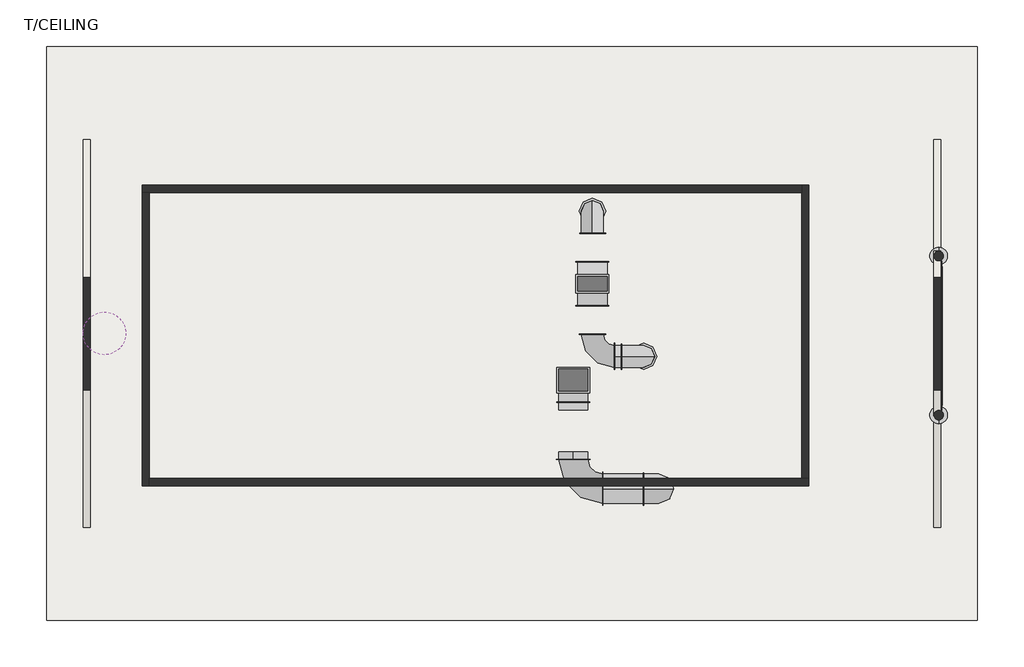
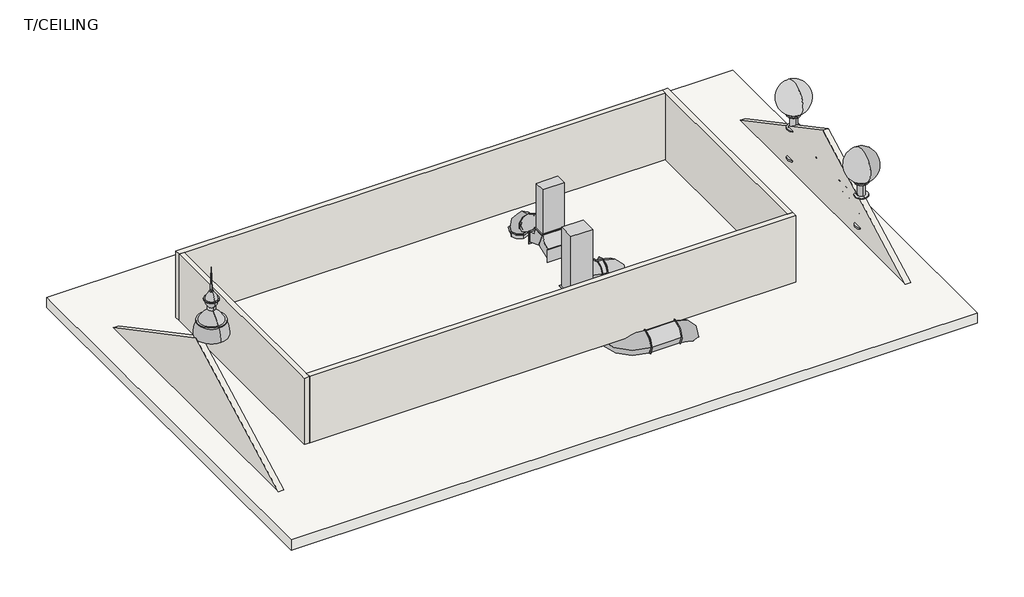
# One storey, incomplete: 51 members, 8 duct segments, 8 plates, 8 walls, 7 duct fittings, 2 air terminals, 2 columns, 1 covering, 2 other elements.
"""IFC4 building model written with IfcOpenShell, lengths in millimetres."""

from ifc_helpers import new_model, si_unit, point, frame, frame_2d, origin, place, context, project, spatial, polyline, circle_curve, trimmed, segment, composite_curve, outline, extrude, faceted_brep, transform, mapped, element, save
from components import air_terminal_962bfd54, column_72347231, column_7ae8a51b, duct_fitting_1b995eb4, duct_fitting_3ba3bf08, duct_fitting_bd8e9532, duct_fitting_371b4ede, duct_fitting_5e7f9d34, member_88db9026, member_5749b9c8, member_6c794b56, member_981c0da2, member_c8d6283c, member_1d6e3c11, plate_f320fb32, wall_db35d8b6

model = new_model("IFC4")

# Units and contexts
model_context = context("Model", 3, world=origin())
ifc_project = project(units=[si_unit("LENGTHUNIT", "METRE", prefix="MILLI")], contexts=[model_context])

# Site, building, storey
site = spatial("IfcSite", under=ifc_project)
building = spatial("IfcBuilding", under=site)
storey = spatial("IfcBuildingStorey", under=building, Name="T/CEILING", Elevation=2500.0)

# Air terminals
placement = place(None, origin())
air_terminal_shape = air_terminal_962bfd54(model_context)
element("IfcAirTerminal", 1, ObjectType="M_送风散流器 - 矩形面圆颈 : 500x500 - 300 颈", at=placement, inside=storey, context=model_context, shape_type="MappedRepresentation", body=[
    mapped(air_terminal_shape, transform((995.7408504, 1389.5693523, 2500.0), x_axis=(0.0, 1.0000000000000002, 0.0), y_axis=(-1.0000000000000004, 0.0, 0.0), z_axis=(0.0, 0.0, 1.0000000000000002))),
])
element("IfcAirTerminal", 2, ObjectType="M_送风散流器 - 矩形面圆颈 : 500x500 - 300 颈", at=placement, inside=storey, context=model_context, shape_type="MappedRepresentation", body=[
    mapped(air_terminal_shape, transform((295.7408504, 3373.1447636, 2500.0), x_axis=(-1.0000000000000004, 0.0, 0.0), y_axis=(0.0, -1.0000000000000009, 0.0), z_axis=(0.0, 0.0, 1.0000000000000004))),
])

# Proxy
element("IfcBuildingElementProxy", 3, Name="200 mm Arial", ObjectType="200 mm Arial", at=placement, inside=storey, context=model_context, shape_type="SweptSolid", body=[
    extrude(outline(polyline([(854.8426554, 3116.7153621), (854.8426554, 3313.638439), (987.1503477, 3313.638439), (987.1503477, 3289.0230544), (879.45804, 3289.0230544), (879.45804, 3230.561516), (971.7657323, 3230.561516), (971.7657323, 3205.9461314), (879.45804, 3205.9461314), (879.45804, 3116.7153621), (854.8426554, 3116.7153621)])), frame((5069.1580578, 0.0, 0.0), z_axis=(1.0, 0.0, 0.0), x_axis=(0.0, 1.0, 0.0)), (0.0, 0.0, 1.0), 10.0),
    extrude(outline(polyline([(1011.7657323, 3212.5807467), (1013.4063573, 3235.6787035), (1018.3282323, 3256.1264198), (1026.5313573, 3273.9238958), (1038.0157323, 3289.0711314), (1052.0932563, 3301.1654823), (1068.0758284, 3309.8043044), (1085.9634486, 3314.9875977), (1105.7561169, 3316.7153621), (1131.5854438, 3313.4701698), (1154.7465015, 3303.7345929), (1173.9772707, 3288.1937275), (1188.0157323, 3267.5326698), (1196.597463, 3242.749016), (1199.45804, 3214.8403621), (1196.4472227, 3186.5591121), (1187.4147707, 3161.4269006), (1172.8594823, 3140.7297852), (1153.2801554, 3125.7538237), (1130.317415, 3116.6672852), (1105.6118861, 3113.638439), (1079.3859246, 3116.9857948), (1056.0926554, 3127.0278621), (1036.909963, 3142.857189), (1023.0157323, 3163.5663237), (1014.5782323, 3187.3944487), (1011.7657323, 3212.5807467)]), holes=[polyline([(1036.3811169, 3212.3403621), (1041.3029919, 3181.5350737), (1056.0686169, 3158.061516), (1078.2621265, 3143.2057467), (1105.4676554, 3138.2538237), (1133.0698188, 3143.2538237), (1155.2993861, 3158.2538237), (1163.8495664, 3169.3025015), (1169.956838, 3182.4485352), (1174.8426554, 3215.0326698), (1172.7513092, 3236.8235352), (1166.4772707, 3255.6576698), (1156.1827996, 3271.060314), (1142.0301554, 3282.5567083), (1124.956838, 3289.7141602), (1105.9003477, 3292.0999775), (1079.4219823, 3287.5026217), (1056.909963, 3273.7105544), (1047.9285929, 3262.9788838), (1041.5133284, 3249.1732948), (1036.3811169, 3212.3403621)])]), frame((5069.1580578, 0.0, 0.0), z_axis=(1.0, 0.0, 0.0), x_axis=(0.0, 1.0, 0.0)), (0.0, 0.0, 1.0), 10.0),
    extrude(outline(polyline([(1224.0734246, 3212.5807467), (1225.7140496, 3235.6787035), (1230.6359246, 3256.1264198), (1238.8390496, 3273.9238958), (1250.3234246, 3289.0711314), (1264.4009486, 3301.1654823), (1280.3835207, 3309.8043044), (1298.2711409, 3314.9875977), (1318.0638092, 3316.7153621), (1343.8931361, 3313.4701698), (1367.0541938, 3303.7345929), (1386.284963, 3288.1937275), (1400.3234246, 3267.5326698), (1408.9051554, 3242.749016), (1411.7657323, 3214.8403621), (1408.754915, 3186.5591121), (1399.722463, 3161.4269006), (1385.1671746, 3140.7297852), (1365.5878477, 3125.7538237), (1342.6251073, 3116.6672852), (1317.9195784, 3113.638439), (1291.6936169, 3116.9857948), (1268.4003477, 3127.0278621), (1249.2176554, 3142.857189), (1235.3234246, 3163.5663237), (1226.8859246, 3187.3944487), (1224.0734246, 3212.5807467)]), holes=[polyline([(1248.6888092, 3212.3403621), (1253.6106842, 3181.5350737), (1268.3763092, 3158.061516), (1290.5698188, 3143.2057467), (1317.7753477, 3138.2538237), (1345.3775111, 3143.2538237), (1367.6070784, 3158.2538237), (1376.1572587, 3169.3025015), (1382.2645304, 3182.4485352), (1387.1503477, 3215.0326698), (1385.0590015, 3236.8235352), (1378.784963, 3255.6576698), (1368.4904919, 3271.060314), (1354.3378477, 3282.5567083), (1337.2645304, 3289.7141602), (1318.20804, 3292.0999775), (1291.7296746, 3287.5026217), (1269.2176554, 3273.7105544), (1260.2362852, 3262.9788838), (1253.8210207, 3249.1732948), (1248.6888092, 3212.3403621)])]), frame((5069.1580578, 0.0, 0.0), z_axis=(1.0, 0.0, 0.0), x_axis=(0.0, 1.0, 0.0)), (0.0, 0.0, 1.0), 10.0),
    extrude(outline(polyline([(1445.6118861, 3116.7153621), (1445.6118861, 3313.638439), (1513.5445784, 3313.638439), (1548.6888092, 3310.8019006), (1564.3859246, 3305.3331506), (1577.6311169, 3296.7153621), (1591.2489054, 3281.7153621), (1600.9484246, 3263.061516), (1606.753713, 3241.1144006), (1608.6888092, 3216.2345929), (1603.4484246, 3176.499016), (1589.9868861, 3147.8211314), (1572.0061169, 3129.9605544), (1548.472463, 3120.0807467), (1516.8138092, 3116.7153621), (1445.6118861, 3116.7153621)]), holes=[polyline([(1470.2272707, 3141.3307467), (1513.784963, 3141.3307467), (1545.4676554, 3144.888439), (1563.7368861, 3154.936516), (1572.2885688, 3165.591564), (1578.7128477, 3179.3836314), (1584.0734246, 3216.6192083), (1581.4472227, 3243.4461314), (1573.5686169, 3263.2538237), (1561.9279919, 3276.8595929), (1548.0157323, 3285.0807467), (1513.1118861, 3289.0230544), (1470.2272707, 3289.0230544), (1470.2272707, 3141.3307467)])]), frame((5069.1580578, 0.0, 0.0), z_axis=(1.0, 0.0, 0.0), x_axis=(0.0, 1.0, 0.0)), (0.0, 0.0, 1.0), 10.0),
    extrude(outline(polyline([(1719.45804, 3116.7153621), (1719.45804, 3313.638439), (1744.0734246, 3313.638439), (1744.0734246, 3217.2442083), (1845.034963, 3313.638439), (1879.45804, 3313.638439), (1794.6984246, 3232.6769006), (1882.534963, 3116.7153621), (1852.4388092, 3116.7153621), (1777.2465015, 3216.0422852), (1744.0734246, 3184.4076698), (1744.0734246, 3116.7153621), (1719.45804, 3116.7153621)])), frame((5069.1580578, 0.0, 0.0), z_axis=(1.0, 0.0, 0.0), x_axis=(0.0, 1.0, 0.0)), (0.0, 0.0, 1.0), 10.0),
    extrude(outline(polyline([(5079.1580578, 1928.6888092), (5079.1580578, 1904.0734246), (5069.1580578, 1904.0734246), (5069.1580578, 1928.6888092), (5079.1580578, 1928.6888092)])), frame((0.0, 0.0, 3116.7153621), z_axis=(0.0, 0.0, 1.0), x_axis=(1.0, 0.0, 0.0)), (0.0, 0.0, 1.0), 196.9230769),
    extrude(outline(polyline([(1968.6888092, 3212.5807467), (1970.3294342, 3235.6787035), (1975.2513092, 3256.1264198), (1983.4544342, 3273.9238958), (1994.9388092, 3289.0711314), (2009.0163332, 3301.1654823), (2024.9989054, 3309.8043044), (2042.8865255, 3314.9875977), (2062.6791938, 3316.7153621), (2088.5085207, 3313.4701698), (2111.6695784, 3303.7345929), (2130.9003477, 3288.1937275), (2144.9388092, 3267.5326698), (2153.52054, 3242.749016), (2156.3811169, 3214.8403621), (2153.3702996, 3186.5591121), (2144.3378477, 3161.4269006), (2129.7825592, 3140.7297852), (2110.2032323, 3125.7538237), (2087.2404919, 3116.6672852), (2062.534963, 3113.638439), (2036.3090015, 3116.9857948), (2013.0157323, 3127.0278621), (1993.83304, 3142.857189), (1979.9388092, 3163.5663237), (1971.5013092, 3187.3944487), (1968.6888092, 3212.5807467)]), holes=[polyline([(1993.3041938, 3212.3403621), (1998.2260688, 3181.5350737), (2012.9916938, 3158.061516), (2035.1852034, 3143.2057467), (2062.3907323, 3138.2538237), (2089.9928957, 3143.2538237), (2112.222463, 3158.2538237), (2120.7726433, 3169.3025015), (2126.879915, 3182.4485352), (2131.7657323, 3215.0326698), (2129.6743861, 3236.8235352), (2123.4003477, 3255.6576698), (2113.1058765, 3271.060314), (2098.9532323, 3282.5567083), (2081.879915, 3289.7141602), (2062.8234246, 3292.0999775), (2036.3450592, 3287.5026217), (2013.83304, 3273.7105544), (2004.8516698, 3262.9788838), (1998.4364054, 3249.1732948), (1993.3041938, 3212.3403621)])]), frame((5069.1580578, 0.0, 0.0), z_axis=(1.0, 0.0, 0.0), x_axis=(0.0, 1.0, 0.0)), (0.0, 0.0, 1.0), 10.0),
    extrude(outline(polyline([(2180.9965015, 3184.4076698), (2205.6118861, 3184.4076698), (2213.5445784, 3159.7682467), (2221.5133284, 3151.0543044), (2232.9195784, 3144.1913237), (2246.8618861, 3139.7381987), (2262.4388092, 3138.2538237), (2288.159963, 3142.749016), (2304.77054, 3155.1047852), (2310.2272707, 3171.6192083), (2306.1407323, 3186.9797852), (2299.9147707, 3193.0555064), (2289.409963, 3198.1576698), (2253.5686169, 3207.5567083), (2214.9868861, 3219.6961314), (2202.7332804, 3227.9773814), (2194.0493861, 3238.013439), (2188.8751073, 3249.5879583), (2187.1503477, 3262.4845929), (2189.2837611, 3276.9016602), (2195.6840015, 3290.3451698), (2206.1827996, 3301.7394006), (2220.6118861, 3310.0086314), (2237.9315977, 3315.0386794), (2257.1022707, 3316.7153621), (2277.8715015, 3314.9605544), (2296.0445784, 3309.6961314), (2310.972463, 3301.030266), (2322.0061169, 3289.0711314), (2328.98929, 3274.5639198), (2331.7657323, 3258.2538237), (2307.1503477, 3258.2538237), (2302.6311169, 3272.9413237), (2293.20804, 3283.5422852), (2278.4844823, 3289.9605544), (2258.0638092, 3292.0999775), (2237.1623669, 3289.9845929), (2222.8234246, 3283.638439), (2214.5301554, 3274.2994967), (2211.7657323, 3263.2057467), (2213.7248669, 3253.7466121), (2219.6022707, 3246.138439), (2233.4965015, 3239.3355544), (2259.7945784, 3232.388439), (2303.3522707, 3220.0326698), (2317.3847227, 3211.1023814), (2327.1743861, 3200.0807467), (2332.925588, 3187.0879583), (2334.8426554, 3172.2442083), (2332.6371265, 3157.0699294), (2326.02054, 3142.7970929), (2315.2633284, 3130.513439), (2300.6359246, 3121.3067083), (2283.0457804, 3115.5555064), (2263.4003477, 3113.638439), (2239.2837611, 3115.7057467), (2219.4340015, 3121.9076698), (2203.6227034, 3132.2682467), (2191.6215015, 3146.811516), (2183.9171746, 3164.5278621), (2180.9965015, 3184.4076698)])), frame((5069.1580578, 0.0, 0.0), z_axis=(1.0, 0.0, 0.0), x_axis=(0.0, 1.0, 0.0)), (0.0, 0.0, 1.0), 10.0),
    extrude(outline(polyline([(2371.7657323, 3116.7153621), (2371.7657323, 3313.638439), (2396.3811169, 3313.638439), (2396.3811169, 3217.2442083), (2497.3426554, 3313.638439), (2531.7657323, 3313.638439), (2447.0061169, 3232.6769006), (2534.8426554, 3116.7153621), (2504.7465015, 3116.7153621), (2429.5541938, 3216.0422852), (2396.3811169, 3184.4076698), (2396.3811169, 3116.7153621), (2371.7657323, 3116.7153621)])), frame((5069.1580578, 0.0, 0.0), z_axis=(1.0, 0.0, 0.0), x_axis=(0.0, 1.0, 0.0)), (0.0, 0.0, 1.0), 10.0),
])

# Columns
column_shape = column_72347231(model_context)
element("IfcColumn", 4, ObjectType="招牌柱 : 招牌柱", at=placement, inside=storey, context=model_context, shape_type="MappedRepresentation", body=[
    mapped(column_shape, transform((0.0, 0.0, 0.0), x_axis=(1.0, 0.0, 0.0), y_axis=(0.0, 1.0, 0.0), z_axis=(0.0, 0.0, 1.0))),
])
column_2_shape = column_7ae8a51b(model_context)
element("IfcColumn", 5, ObjectType="旗杆2 : 旗杆", at=placement, inside=storey, context=model_context, shape_type="MappedRepresentation", body=[
    mapped(column_2_shape, transform((1214.0, 0.0, 0.0), x_axis=(1.0, 0.0, 0.0), y_axis=(0.0, 1.0, 0.0), z_axis=(0.0, 0.0, 1.0))),
])

# Covering
element("IfcCovering", 6, ObjectType="600 x 1200mm 轴网", at=placement, inside=storey, context=model_context, shape_type="SweptSolid", body=[
    extrude(outline(polyline([(2709.1580578, 4328.016625), (2709.1580578, -971.983375), (-1360.8419422, -971.983375), (-1360.8419422, 4328.016625), (2709.1580578, 4328.016625)]), holes=[polyline([(545.7408504, 3123.1447636), (545.7408504, 3623.1447636), (45.7408504, 3623.1447636), (45.7408504, 3123.1447636), (545.7408504, 3123.1447636)]), polyline([(1574.1580578, -882.2745128), (1574.1580578, -282.2745128), (974.1580578, -282.2745128), (974.1580578, -882.2745128), (1574.1580578, -882.2745128)])]), frame((0.0, 0.0, 2500.0), z_axis=(0.0, 0.0, 1.0), x_axis=(1.0, 0.0, 0.0)), (0.0, 0.0, 1.0), 52.0),
])

# Duct fittings
duct_fitting_shape = duct_fitting_1b995eb4(model_context)
element("IfcDuctFitting", 7, ObjectType="圆形弯头 - 弧形 - 法兰 : 标准", at=placement, inside=storey, context=model_context, shape_type="MappedRepresentation", body=[
    mapped(duct_fitting_shape, transform((33.5546129, -421.0960802, 2845.0), x_axis=(0.0, -1.0, 0.0), y_axis=(1.0, 0.0, 0.0), z_axis=(0.0, 0.0, 1.0))),
])
duct_fitting_2_shape = duct_fitting_3ba3bf08(model_context)
element("IfcDuctFitting", 8, ObjectType="矩形弯头 - 半径 - 法兰 : 回风管弯头 1.0 W", at=placement, inside=storey, context=model_context, shape_type="MappedRepresentation", body=[
    mapped(duct_fitting_2_shape, transform((33.5546129, 1064.7943665, 2845.0), x_axis=(0.0, 1.0, 0.0), y_axis=(0.0, 0.0, 1.0), z_axis=(1.0, 0.0, 0.0))),
])
duct_fitting_3_shape = duct_fitting_bd8e9532(model_context)
element("IfcDuctFitting", 9, ObjectType="圆形弯头 - 弧形 - 法兰 : 标准", at=placement, inside=storey, context=model_context, shape_type="MappedRepresentation", body=[
    mapped(duct_fitting_3_shape, transform((995.7408504, 1389.5693523, 3100.0), x_axis=(0.0, 0.0, 1.0), y_axis=(-1.0, 0.0, 0.0), z_axis=(0.0, -1.0, 0.0))),
])
element("IfcDuctFitting", 10, ObjectType="圆形弯头 - 弧形 - 法兰 : 标准", at=placement, inside=storey, context=model_context, shape_type="MappedRepresentation", body=[
    mapped(duct_fitting_3_shape, transform((295.7408504, 1389.5693523, 3100.0), x_axis=(0.0, -1.0, 0.0), y_axis=(1.0, 0.0, 0.0), z_axis=(0.0, 0.0, 1.0))),
])
element("IfcDuctFitting", 11, ObjectType="圆形弯头 - 弧形 - 法兰 : 标准", at=placement, inside=storey, context=model_context, shape_type="MappedRepresentation", body=[
    mapped(duct_fitting_3_shape, transform((295.7408504, 3373.1447636, 3100.0), x_axis=(0.0, 0.0, 1.0000000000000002), y_axis=(0.0, -1.0000000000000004, 0.0), z_axis=(1.0000000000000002, 0.0, 0.0))),
])
duct_fitting_4_shape = duct_fitting_371b4ede(model_context)
element("IfcDuctFitting", 12, ObjectType="矩形Y 形三通 - 弯曲 - 过渡件 - 底对齐 - 法兰 : 送风管 法兰Y形三通底对齐", at=placement, inside=storey, context=model_context, shape_type="MappedRepresentation", body=[
    mapped(duct_fitting_4_shape, transform((295.7408504, 2381.3570579, 3125.3998984), x_axis=(0.0, 1.0, 0.0), y_axis=(0.0, 0.0, -1.0), z_axis=(-1.0, 0.0, 0.0))),
])
duct_fitting_5_shape = duct_fitting_5e7f9d34(model_context)
element("IfcDuctFitting", 13, ObjectType="圆形弯头 - 弧形 - 法兰 : 标准", at=placement, inside=storey, context=model_context, shape_type="MappedRepresentation", body=[
    mapped(duct_fitting_5_shape, transform((1234.3390652, -421.0960802, 2845.0), x_axis=(1.0, 0.0, 0.0), y_axis=(0.0, 0.0, -1.0), z_axis=(0.0, 1.0, 0.0))),
])

# Duct segments
element("IfcDuctSegment", 14, ObjectType="T 形三通", at=placement, inside=storey, context=model_context, shape_type="SweptSolid", body=[
    extrude(outline(composite_curve([segment(trimmed(circle_curve(frame_2d((-421.0960802, 2845.0)), 200.0), [point((-221.0960802, 2845.0))], [point((-421.0960802, 2645.0))], False, "CARTESIAN"), True, "CONTINUOUS"), segment(trimmed(circle_curve(frame_2d((-421.0960802, 2845.0)), 200.0), [point((-421.0960802, 2645.0))], [point((-621.0960802, 2845.0))], False, "CARTESIAN"), True, "CONTINUOUS"), segment(trimmed(circle_curve(frame_2d((-421.0960802, 2845.0)), 200.0), [point((-621.0960802, 2845.0))], [point((-421.0960802, 3045.0))], False, "CARTESIAN"), True, "CONTINUOUS"), segment(trimmed(circle_curve(frame_2d((-421.0960802, 2845.0)), 200.0), [point((-421.0960802, 3045.0))], [point((-221.0960802, 2845.0))], False, "CARTESIAN"), True, "CONTINUOUS")], self_intersect=False)), frame((436.5546129, 0.0, 0.0), z_axis=(1.0, 0.0, 0.0), x_axis=(0.0, 1.0, 0.0)), (0.0, 0.0, 1.0), 554.7844522),
])
element("IfcDuctSegment", 15, ObjectType="T 形三通", at=placement, inside=storey, context=model_context, shape_type="SweptSolid", body=[
    extrude(outline(composite_curve([segment(trimmed(circle_curve(frame_2d((2845.0, 33.5546129)), 200.0), [point((2845.0, 233.5546129))], [point((3045.0, 33.5546129))], False, "CARTESIAN"), True, "CONTINUOUS"), segment(trimmed(circle_curve(frame_2d((2845.0, 33.5546129)), 200.0), [point((3045.0, 33.5546129))], [point((2845.0, -166.4453871))], False, "CARTESIAN"), True, "CONTINUOUS"), segment(trimmed(circle_curve(frame_2d((2845.0, 33.5546129)), 200.0), [point((2845.0, -166.4453871))], [point((2645.0, 33.5546129))], False, "CARTESIAN"), True, "CONTINUOUS"), segment(trimmed(circle_curve(frame_2d((2845.0, 33.5546129)), 200.0), [point((2645.0, 33.5546129))], [point((2845.0, 233.5546129))], False, "CARTESIAN"), True, "CONTINUOUS")], self_intersect=False)), frame((0.0, -18.0960802, 0.0), z_axis=(0.0, 1.0, 0.0), x_axis=(0.0, 0.0, 1.0)), (0.0, 0.0, 1.0), 97.0),
])
element("IfcDuctSegment", 16, ObjectType="回风风管 / T 形三通", at=placement, inside=storey, context=model_context, shape_type="SweptSolid", body=[
    extrude(outline(polyline([(233.5546129, 656.406535), (-166.4453871, 656.406535), (-166.4453871, 761.7943665), (233.5546129, 761.7943665), (233.5546129, 656.406535)])), frame((0.0, 0.0, 2695.0), z_axis=(0.0, 0.0, 1.0), x_axis=(1.0, 0.0, 0.0)), (0.0, 0.0, 1.0), 300.0),
])
element("IfcDuctSegment", 17, ObjectType="回风风管 / T 形三通", at=placement, inside=storey, context=model_context, shape_type="SweptSolid", body=[
    extrude(outline(polyline([(-166.4453871, 1214.7943665), (233.5546129, 1214.7943665), (233.5546129, 914.7943665), (-166.4453871, 914.7943665), (-166.4453871, 1214.7943665)])), frame((0.0, 0.0, 3148.0), z_axis=(0.0, 0.0, 1.0), x_axis=(1.0, 0.0, 0.0)), (0.0, 0.0, 1.0), 1152.0),
])
element("IfcDuctSegment", 18, ObjectType="T 形三通", at=placement, inside=storey, context=model_context, shape_type="SweptSolid", body=[
    extrude(outline(composite_curve([segment(trimmed(circle_curve(frame_2d((1389.5693523, 3100.0)), 150.0), [point((1539.5693523, 3100.0))], [point((1389.5693523, 2950.0))], False, "CARTESIAN"), True, "CONTINUOUS"), segment(trimmed(circle_curve(frame_2d((1389.5693523, 3100.0)), 150.0), [point((1389.5693523, 2950.0))], [point((1239.5693523, 3100.0))], False, "CARTESIAN"), True, "CONTINUOUS"), segment(trimmed(circle_curve(frame_2d((1389.5693523, 3100.0)), 150.0), [point((1239.5693523, 3100.0))], [point((1389.5693523, 3250.0))], False, "CARTESIAN"), True, "CONTINUOUS"), segment(trimmed(circle_curve(frame_2d((1389.5693523, 3100.0)), 150.0), [point((1389.5693523, 3250.0))], [point((1539.5693523, 3100.0))], False, "CARTESIAN"), True, "CONTINUOUS")], self_intersect=False)), frame((598.7408504, 0.0, 0.0), z_axis=(1.0, 0.0, 0.0), x_axis=(0.0, 1.0, 0.0)), (0.0, 0.0, 1.0), 94.0),
])
element("IfcDuctSegment", 19, ObjectType="T 形三通", at=placement, inside=storey, context=model_context, shape_type="SweptSolid", body=[
    extrude(outline(composite_curve([segment(trimmed(circle_curve(frame_2d((995.7408504, 1389.5693523)), 150.0), [point((995.7408504, 1539.5693523))], [point((1145.7408504, 1389.5693523))], False, "CARTESIAN"), True, "CONTINUOUS"), segment(trimmed(circle_curve(frame_2d((995.7408504, 1389.5693523)), 150.0), [point((1145.7408504, 1389.5693523))], [point((995.7408504, 1239.5693523))], False, "CARTESIAN"), True, "CONTINUOUS"), segment(trimmed(circle_curve(frame_2d((995.7408504, 1389.5693523)), 150.0), [point((995.7408504, 1239.5693523))], [point((845.7408504, 1389.5693523))], False, "CARTESIAN"), True, "CONTINUOUS"), segment(trimmed(circle_curve(frame_2d((995.7408504, 1389.5693523)), 150.0), [point((845.7408504, 1389.5693523))], [point((995.7408504, 1539.5693523))], False, "CARTESIAN"), True, "CONTINUOUS")], self_intersect=False)), frame((0.0, 0.0, 2553.975), z_axis=(0.0, 0.0, 1.0), x_axis=(1.0, 0.0, 0.0)), (0.0, 0.0, 1.0), 243.025),
])
element("IfcDuctSegment", 20, ObjectType="T 形三通", at=placement, inside=storey, context=model_context, shape_type="SweptSolid", body=[
    extrude(outline(composite_curve([segment(trimmed(circle_curve(frame_2d((295.7408504, 3373.1447636)), 150.0), [point((145.7408504, 3373.1447636))], [point((295.7408504, 3523.1447636))], False, "CARTESIAN"), True, "CONTINUOUS"), segment(trimmed(circle_curve(frame_2d((295.7408504, 3373.1447636)), 150.0), [point((295.7408504, 3523.1447636))], [point((445.7408504, 3373.1447636))], False, "CARTESIAN"), True, "CONTINUOUS"), segment(trimmed(circle_curve(frame_2d((295.7408504, 3373.1447636)), 150.0), [point((445.7408504, 3373.1447636))], [point((295.7408504, 3223.1447636))], False, "CARTESIAN"), True, "CONTINUOUS"), segment(trimmed(circle_curve(frame_2d((295.7408504, 3373.1447636)), 150.0), [point((295.7408504, 3223.1447636))], [point((145.7408504, 3373.1447636))], False, "CARTESIAN"), True, "CONTINUOUS")], self_intersect=False)), frame((0.0, 0.0, 2553.975), z_axis=(0.0, 0.0, 1.0), x_axis=(1.0, 0.0, 0.0)), (0.0, 0.0, 1.0), 243.025),
])
element("IfcDuctSegment", 21, ObjectType="送风风管 / T 形三通", at=placement, inside=storey, context=model_context, shape_type="SweptSolid", body=[
    extrude(outline(polyline([(95.7408504, 2481.3570579), (495.7408504, 2481.3570579), (495.7408504, 2281.3570579), (95.7408504, 2281.3570579), (95.7408504, 2481.3570579)])), frame((0.0, 0.0, 3428.3998984), z_axis=(0.0, 0.0, 1.0), x_axis=(1.0, 0.0, 0.0)), (0.0, 0.0, 1.0), 871.6001016),
])

# Members
member_shape = member_88db9026(model_context)
element("IfcMember", 22, ObjectType="矩形竖梃 : 20mm 正方形", at=placement, inside=storey, context=model_context, shape_type="MappedRepresentation", body=[
    mapped(member_shape, transform((5059.1580578, 160.516625, 2160.0), x_axis=(0.0, 0.0, -1.0), y_axis=(-1.0, 0.0, 0.0), z_axis=(0.0, 1.0, 0.0))),
])
element("IfcMember", 23, ObjectType="矩形竖梃 : 20mm 正方形", at=placement, inside=storey, context=model_context, shape_type="MappedRepresentation", body=[
    mapped(member_shape, transform((5059.1580578, -147.483375, 2160.0), x_axis=(0.0, 0.0, -1.0), y_axis=(-1.0, 0.0, 0.0), z_axis=(0.0, 1.0, 0.0))),
])
element("IfcMember", 24, ObjectType="矩形竖梃 : 20mm 正方形", at=placement, inside=storey, context=model_context, shape_type="MappedRepresentation", body=[
    mapped(member_shape, transform((5059.1580578, -455.483375, 2160.0), x_axis=(0.0, 0.0, -1.0), y_axis=(-1.0, 0.0, 0.0), z_axis=(0.0, 1.0, 0.0))),
])
element("IfcMember", 25, ObjectType="矩形竖梃 : 20mm 正方形", at=placement, inside=storey, context=model_context, shape_type="MappedRepresentation", body=[
    mapped(member_shape, transform((5059.1580578, 4111.516625, 2160.0), x_axis=(0.0, 0.0, -1.0), y_axis=(-1.0, 0.0, 0.0), z_axis=(0.0, 1.0, 0.0))),
])
element("IfcMember", 26, ObjectType="矩形竖梃 : 20mm 正方形", at=placement, inside=storey, context=model_context, shape_type="MappedRepresentation", body=[
    mapped(member_shape, transform((5059.1580578, 3803.516625, 2160.0), x_axis=(0.0, 0.0, -1.0), y_axis=(-1.0, 0.0, 0.0), z_axis=(0.0, 1.0, 0.0))),
])
element("IfcMember", 27, ObjectType="矩形竖梃 : 20mm 正方形", at=placement, inside=storey, context=model_context, shape_type="MappedRepresentation", body=[
    mapped(member_shape, transform((5059.1580578, 3495.516625, 2160.0), x_axis=(0.0, 0.0, -1.0), y_axis=(-1.0, 0.0, 0.0), z_axis=(0.0, 1.0, 0.0))),
])
member_2_shape = member_5749b9c8(model_context)
element("IfcMember", 28, ObjectType="矩形竖梃 : 20mm 正方形", at=placement, inside=storey, context=model_context, shape_type="MappedRepresentation", body=[
    mapped(member_2_shape, transform((5059.1580578, 478.516625, 2160.0), x_axis=(0.0, 0.0, -1.0), y_axis=(-1.0, 0.0, 0.0), z_axis=(0.0, 1.0, 0.0))),
])
element("IfcMember", 29, ObjectType="矩形竖梃 : 20mm 正方形", at=placement, inside=storey, context=model_context, shape_type="MappedRepresentation", body=[
    mapped(member_2_shape, transform((5059.1580578, 4429.516625, 2160.0), x_axis=(0.0, 0.0, -1.0), y_axis=(-1.0, 0.0, 0.0), z_axis=(0.0, 1.0, 0.0))),
])
element("IfcMember", 30, ObjectType="矩形竖梃 : 20mm 正方形", at=placement, inside=storey, context=model_context, shape_type="MappedRepresentation", body=[
    mapped(member_2_shape, transform((5059.1580578, -763.483375, 2160.0), x_axis=(0.0, 0.0, -1.0), y_axis=(-1.0, 0.0, 0.0), z_axis=(0.0, 1.0, 0.0))),
])
element("IfcMember", 31, ObjectType="矩形竖梃 : 20mm 正方形", at=placement, inside=storey, context=model_context, shape_type="MappedRepresentation", body=[
    mapped(member_2_shape, transform((5059.1580578, 3187.516625, 2160.0), x_axis=(0.0, 0.0, -1.0), y_axis=(-1.0, 0.0, 0.0), z_axis=(0.0, 1.0, 0.0))),
])
member_3_shape = member_6c794b56(model_context)
element("IfcMember", 32, ObjectType="矩形竖梃 : 20mm 正方形", at=placement, inside=storey, context=model_context, shape_type="MappedRepresentation", body=[
    mapped(member_3_shape, transform((5059.1580578, -1081.483375, 2180.0), x_axis=(0.0, -1.0, 0.0), y_axis=(-1.0, 0.0, 0.0), z_axis=(0.0, 0.0, -1.0))),
])
element("IfcMember", 33, ObjectType="矩形竖梃 : 20mm 正方形", at=placement, inside=storey, context=model_context, shape_type="MappedRepresentation", body=[
    mapped(member_3_shape, transform((5059.1580578, 2869.516625, 2180.0), x_axis=(0.0, -1.0, 0.0), y_axis=(-1.0, 0.0, 0.0), z_axis=(0.0, 0.0, -1.0))),
])
element("IfcMember", 34, ObjectType="矩形竖梃 : 20mm 正方形", at=placement, inside=storey, context=model_context, shape_type="MappedRepresentation", body=[
    mapped(member_3_shape, transform((5059.1580578, 693.516625, 2180.0), x_axis=(0.0, -1.0, 0.0), y_axis=(-1.0, 0.0, 0.0), z_axis=(0.0, 0.0, -1.0))),
])
member_4_shape = member_981c0da2(model_context)
element("IfcMember", 35, ObjectType="矩形竖梃 : 20mm 正方形", at=placement, inside=storey, context=model_context, shape_type="MappedRepresentation", body=[
    mapped(member_4_shape, transform((5059.1580578, -763.483375, 2180.0), x_axis=(0.0, -1.0, 0.0), y_axis=(-1.0, 0.0, 0.0), z_axis=(0.0, 0.0, -1.0))),
])
element("IfcMember", 36, ObjectType="矩形竖梃 : 20mm 正方形", at=placement, inside=storey, context=model_context, shape_type="MappedRepresentation", body=[
    mapped(member_4_shape, transform((5059.1580578, -455.483375, 2180.0), x_axis=(0.0, -1.0, 0.0), y_axis=(-1.0, 0.0, 0.0), z_axis=(0.0, 0.0, -1.0))),
])
element("IfcMember", 37, ObjectType="矩形竖梃 : 20mm 正方形", at=placement, inside=storey, context=model_context, shape_type="MappedRepresentation", body=[
    mapped(member_4_shape, transform((5059.1580578, -147.483375, 2180.0), x_axis=(0.0, -1.0, 0.0), y_axis=(-1.0, 0.0, 0.0), z_axis=(0.0, 0.0, -1.0))),
])
element("IfcMember", 38, ObjectType="矩形竖梃 : 20mm 正方形", at=placement, inside=storey, context=model_context, shape_type="MappedRepresentation", body=[
    mapped(member_4_shape, transform((5059.1580578, 160.516625, 2180.0), x_axis=(0.0, -1.0, 0.0), y_axis=(-1.0, 0.0, 0.0), z_axis=(0.0, 0.0, -1.0))),
])
element("IfcMember", 39, ObjectType="矩形竖梃 : 20mm 正方形", at=placement, inside=storey, context=model_context, shape_type="MappedRepresentation", body=[
    mapped(member_4_shape, transform((5059.1580578, 3187.516625, 2180.0), x_axis=(0.0, -1.0, 0.0), y_axis=(-1.0, 0.0, 0.0), z_axis=(0.0, 0.0, -1.0))),
])
element("IfcMember", 40, ObjectType="矩形竖梃 : 20mm 正方形", at=placement, inside=storey, context=model_context, shape_type="MappedRepresentation", body=[
    mapped(member_4_shape, transform((5059.1580578, 3495.516625, 2180.0), x_axis=(0.0, -1.0, 0.0), y_axis=(-1.0, 0.0, 0.0), z_axis=(0.0, 0.0, -1.0))),
])
element("IfcMember", 41, ObjectType="矩形竖梃 : 20mm 正方形", at=placement, inside=storey, context=model_context, shape_type="MappedRepresentation", body=[
    mapped(member_4_shape, transform((5059.1580578, 3803.516625, 2180.0), x_axis=(0.0, -1.0, 0.0), y_axis=(-1.0, 0.0, 0.0), z_axis=(0.0, 0.0, -1.0))),
])
element("IfcMember", 42, ObjectType="矩形竖梃 : 20mm 正方形", at=placement, inside=storey, context=model_context, shape_type="MappedRepresentation", body=[
    mapped(member_4_shape, transform((5059.1580578, 4111.516625, 2180.0), x_axis=(0.0, -1.0, 0.0), y_axis=(-1.0, 0.0, 0.0), z_axis=(0.0, 0.0, -1.0))),
])
element("IfcMember", 43, ObjectType="矩形竖梃 : 20mm 正方形", at=placement, inside=storey, context=model_context, shape_type="MappedRepresentation", body=[
    mapped(member_4_shape, transform((5059.1580578, 1027.016625, 2180.0), x_axis=(0.0, -1.0, 0.0), y_axis=(-1.0, 0.0, 0.0), z_axis=(0.0, 0.0, -1.0))),
])
element("IfcMember", 44, ObjectType="矩形竖梃 : 20mm 正方形", at=placement, inside=storey, context=model_context, shape_type="MappedRepresentation", body=[
    mapped(member_4_shape, transform((5059.1580578, 2321.016625, 2180.0), x_axis=(0.0, -1.0, 0.0), y_axis=(-1.0, 0.0, 0.0), z_axis=(0.0, 0.0, -1.0))),
])
element("IfcMember", 45, ObjectType="矩形竖梃 : 20mm 正方形", at=placement, inside=storey, context=model_context, shape_type="MappedRepresentation", body=[
    mapped(member_4_shape, transform((5059.1580578, 1997.516625, 2180.0), x_axis=(0.0, -1.0, 0.0), y_axis=(-1.0, 0.0, 0.0), z_axis=(0.0, 0.0, -1.0))),
])
element("IfcMember", 46, ObjectType="矩形竖梃 : 20mm 正方形", at=placement, inside=storey, context=model_context, shape_type="MappedRepresentation", body=[
    mapped(member_4_shape, transform((5059.1580578, 1674.016625, 2180.0), x_axis=(0.0, -1.0, 0.0), y_axis=(-1.0, 0.0, 0.0), z_axis=(0.0, 0.0, -1.0))),
])
element("IfcMember", 47, ObjectType="矩形竖梃 : 20mm 正方形", at=placement, inside=storey, context=model_context, shape_type="MappedRepresentation", body=[
    mapped(member_4_shape, transform((5059.1580578, 1350.516625, 2180.0), x_axis=(0.0, -1.0, 0.0), y_axis=(-1.0, 0.0, 0.0), z_axis=(0.0, 0.0, -1.0))),
])
element("IfcMember", 48, ObjectType="矩形竖梃 : 20mm 正方形", at=placement, inside=storey, context=model_context, shape_type="MappedRepresentation", body=[
    mapped(member_2_shape, transform((5059.1580578, -1081.483375, 2500.0), x_axis=(0.0, 0.0, 1.0), y_axis=(-1.0, 0.0, 0.0), z_axis=(0.0, -1.0, 0.0))),
])
element("IfcMember", 49, ObjectType="矩形竖梃 : 20mm 正方形", at=placement, inside=storey, context=model_context, shape_type="MappedRepresentation", body=[
    mapped(member_2_shape, transform((5059.1580578, 2869.516625, 2500.0), x_axis=(0.0, 0.0, 1.0), y_axis=(-1.0, 0.0, 0.0), z_axis=(0.0, -1.0, 0.0))),
])
element("IfcMember", 50, ObjectType="矩形竖梃 : 20mm 正方形", at=placement, inside=storey, context=model_context, shape_type="MappedRepresentation", body=[
    mapped(member_shape, transform((5059.1580578, -763.483375, 2500.0), x_axis=(0.0, 0.0, 1.0), y_axis=(-1.0, 0.0, 0.0), z_axis=(0.0, -1.0, 0.0))),
])
element("IfcMember", 51, ObjectType="矩形竖梃 : 20mm 正方形", at=placement, inside=storey, context=model_context, shape_type="MappedRepresentation", body=[
    mapped(member_shape, transform((5059.1580578, -455.483375, 2500.0), x_axis=(0.0, 0.0, 1.0), y_axis=(-1.0, 0.0, 0.0), z_axis=(0.0, -1.0, 0.0))),
])
element("IfcMember", 52, ObjectType="矩形竖梃 : 20mm 正方形", at=placement, inside=storey, context=model_context, shape_type="MappedRepresentation", body=[
    mapped(member_shape, transform((5059.1580578, -147.483375, 2500.0), x_axis=(0.0, 0.0, 1.0), y_axis=(-1.0, 0.0, 0.0), z_axis=(0.0, -1.0, 0.0))),
])
element("IfcMember", 53, ObjectType="矩形竖梃 : 20mm 正方形", at=placement, inside=storey, context=model_context, shape_type="MappedRepresentation", body=[
    mapped(member_shape, transform((5059.1580578, 3187.516625, 2500.0), x_axis=(0.0, 0.0, 1.0), y_axis=(-1.0, 0.0, 0.0), z_axis=(0.0, -1.0, 0.0))),
])
element("IfcMember", 54, ObjectType="矩形竖梃 : 20mm 正方形", at=placement, inside=storey, context=model_context, shape_type="MappedRepresentation", body=[
    mapped(member_shape, transform((5059.1580578, 3495.516625, 2500.0), x_axis=(0.0, 0.0, 1.0), y_axis=(-1.0, 0.0, 0.0), z_axis=(0.0, -1.0, 0.0))),
])
element("IfcMember", 55, ObjectType="矩形竖梃 : 20mm 正方形", at=placement, inside=storey, context=model_context, shape_type="MappedRepresentation", body=[
    mapped(member_shape, transform((5059.1580578, 3803.516625, 2500.0), x_axis=(0.0, 0.0, 1.0), y_axis=(-1.0, 0.0, 0.0), z_axis=(0.0, -1.0, 0.0))),
])
element("IfcMember", 56, ObjectType="矩形竖梃 : 20mm 正方形", at=placement, inside=storey, context=model_context, shape_type="MappedRepresentation", body=[
    mapped(member_2_shape, transform((5059.1580578, 160.516625, 2500.0), x_axis=(0.0, 0.0, 1.0), y_axis=(-1.0, 0.0, 0.0), z_axis=(0.0, -1.0, 0.0))),
])
element("IfcMember", 57, ObjectType="矩形竖梃 : 20mm 正方形", at=placement, inside=storey, context=model_context, shape_type="MappedRepresentation", body=[
    mapped(member_2_shape, transform((5059.1580578, 4111.516625, 2500.0), x_axis=(0.0, 0.0, 1.0), y_axis=(-1.0, 0.0, 0.0), z_axis=(0.0, -1.0, 0.0))),
])
element("IfcMember", 58, ObjectType="矩形竖梃 : 20mm 正方形", at=placement, inside=storey, context=model_context, shape_type="MappedRepresentation", body=[
    mapped(member_3_shape, transform((5059.1580578, 478.516625, 2480.0), x_axis=(0.0, 1.0, 0.0), y_axis=(-1.0, 0.0, 0.0), z_axis=(0.0, 0.0, 1.0))),
])
element("IfcMember", 59, ObjectType="矩形竖梃 : 20mm 正方形", at=placement, inside=storey, context=model_context, shape_type="MappedRepresentation", body=[
    mapped(member_3_shape, transform((5059.1580578, 4429.516625, 2480.0), x_axis=(0.0, 1.0, 0.0), y_axis=(-1.0, 0.0, 0.0), z_axis=(0.0, 0.0, 1.0))),
])
element("IfcMember", 60, ObjectType="矩形竖梃 : 20mm 正方形", at=placement, inside=storey, context=model_context, shape_type="MappedRepresentation", body=[
    mapped(member_3_shape, transform((5059.1580578, 2654.516625, 2480.0), x_axis=(0.0, 1.0, 0.0), y_axis=(-1.0, 0.0, 0.0), z_axis=(0.0, 0.0, 1.0))),
])
member_5_shape = member_c8d6283c(model_context)
element("IfcMember", 61, ObjectType="矩形竖梃 : 20mm 正方形", at=placement, inside=storey, context=model_context, shape_type="MappedRepresentation", body=[
    mapped(member_5_shape, transform((5059.1580578, 2321.016625, 2160.0), x_axis=(0.0, 0.0, -1.0), y_axis=(-1.0, 0.0, 0.0), z_axis=(0.0, 1.0, 0.0))),
])
element("IfcMember", 62, ObjectType="矩形竖梃 : 20mm 正方形", at=placement, inside=storey, context=model_context, shape_type="MappedRepresentation", body=[
    mapped(member_5_shape, transform((5059.1580578, 1350.516625, 2160.0), x_axis=(0.0, 0.0, -1.0), y_axis=(-1.0, 0.0, 0.0), z_axis=(0.0, 1.0, 0.0))),
])
element("IfcMember", 63, ObjectType="矩形竖梃 : 20mm 正方形", at=placement, inside=storey, context=model_context, shape_type="MappedRepresentation", body=[
    mapped(member_5_shape, transform((5059.1580578, 1674.016625, 2160.0), x_axis=(0.0, 0.0, -1.0), y_axis=(-1.0, 0.0, 0.0), z_axis=(0.0, 1.0, 0.0))),
])
element("IfcMember", 64, ObjectType="矩形竖梃 : 20mm 正方形", at=placement, inside=storey, context=model_context, shape_type="MappedRepresentation", body=[
    mapped(member_5_shape, transform((5059.1580578, 1997.516625, 2160.0), x_axis=(0.0, 0.0, -1.0), y_axis=(-1.0, 0.0, 0.0), z_axis=(0.0, 1.0, 0.0))),
])
member_6_shape = member_1d6e3c11(model_context)
element("IfcMember", 65, ObjectType="矩形竖梃 : 20mm 正方形", at=placement, inside=storey, context=model_context, shape_type="MappedRepresentation", body=[
    mapped(member_6_shape, transform((5059.1580578, 2654.516625, 2160.0), x_axis=(0.0, 0.0, -1.0), y_axis=(-1.0, 0.0, 0.0), z_axis=(0.0, 1.0, 0.0))),
])
element("IfcMember", 66, ObjectType="矩形竖梃 : 20mm 正方形", at=placement, inside=storey, context=model_context, shape_type="MappedRepresentation", body=[
    mapped(member_6_shape, transform((5059.1580578, 1027.016625, 2160.0), x_axis=(0.0, 0.0, -1.0), y_axis=(-1.0, 0.0, 0.0), z_axis=(0.0, 1.0, 0.0))),
])
element("IfcMember", 67, ObjectType="矩形竖梃 : 20mm 正方形", at=placement, inside=storey, context=model_context, shape_type="MappedRepresentation", body=[
    mapped(member_6_shape, transform((5059.1580578, 693.516625, 2500.0), x_axis=(0.0, 0.0, 1.0), y_axis=(-1.0, 0.0, 0.0), z_axis=(0.0, -1.0, 0.0))),
])
element("IfcMember", 68, ObjectType="矩形竖梃 : 20mm 正方形", at=placement, inside=storey, context=model_context, shape_type="MappedRepresentation", body=[
    mapped(member_5_shape, transform((5059.1580578, 1027.016625, 2500.0), x_axis=(0.0, 0.0, 1.0), y_axis=(-1.0, 0.0, 0.0), z_axis=(0.0, -1.0, 0.0))),
])
element("IfcMember", 69, ObjectType="矩形竖梃 : 20mm 正方形", at=placement, inside=storey, context=model_context, shape_type="MappedRepresentation", body=[
    mapped(member_5_shape, transform((5059.1580578, 1350.516625, 2500.0), x_axis=(0.0, 0.0, 1.0), y_axis=(-1.0, 0.0, 0.0), z_axis=(0.0, -1.0, 0.0))),
])
element("IfcMember", 70, ObjectType="矩形竖梃 : 20mm 正方形", at=placement, inside=storey, context=model_context, shape_type="MappedRepresentation", body=[
    mapped(member_5_shape, transform((5059.1580578, 1674.016625, 2500.0), x_axis=(0.0, 0.0, 1.0), y_axis=(-1.0, 0.0, 0.0), z_axis=(0.0, -1.0, 0.0))),
])
element("IfcMember", 71, ObjectType="矩形竖梃 : 20mm 正方形", at=placement, inside=storey, context=model_context, shape_type="MappedRepresentation", body=[
    mapped(member_5_shape, transform((5059.1580578, 1997.516625, 2500.0), x_axis=(0.0, 0.0, 1.0), y_axis=(-1.0, 0.0, 0.0), z_axis=(0.0, -1.0, 0.0))),
])
element("IfcMember", 72, ObjectType="矩形竖梃 : 20mm 正方形", at=placement, inside=storey, context=model_context, shape_type="MappedRepresentation", body=[
    mapped(member_6_shape, transform((5059.1580578, 2321.016625, 2500.0), x_axis=(0.0, 0.0, 1.0), y_axis=(-1.0, 0.0, 0.0), z_axis=(0.0, -1.0, 0.0))),
])

# Plates
plate_shape = plate_f320fb32(model_context)
element("IfcPlate", 73, ObjectType="空系统嵌板 : 空", at=placement, inside=storey, context=model_context, shape_type="MappedRepresentation", body=[
    mapped(plate_shape, transform((5059.1580578, 6.516625, 2180.0), x_axis=(0.0, -1.0, 0.0), y_axis=(1.0, 0.0, 0.0), z_axis=(0.0, 0.0, 1.0))),
])
element("IfcPlate", 74, ObjectType="空系统嵌板 : 空", at=placement, inside=storey, context=model_context, shape_type="MappedRepresentation", body=[
    mapped(plate_shape, transform((5059.1580578, -301.483375, 2180.0), x_axis=(0.0, -1.0, 0.0), y_axis=(1.0, 0.0, 0.0), z_axis=(0.0, 0.0, 1.0))),
])
element("IfcPlate", 75, ObjectType="空系统嵌板 : 空", at=placement, inside=storey, context=model_context, shape_type="MappedRepresentation", body=[
    mapped(plate_shape, transform((5059.1580578, -609.483375, 2180.0), x_axis=(0.0, -1.0, 0.0), y_axis=(1.0, 0.0, 0.0), z_axis=(0.0, 0.0, 1.0))),
])
element("IfcPlate", 76, ObjectType="空系统嵌板 : 空", at=placement, inside=storey, context=model_context, shape_type="MappedRepresentation", body=[
    mapped(plate_shape, transform((5059.1580578, -917.483375, 2180.0), x_axis=(0.0, -1.0, 0.0), y_axis=(1.0, 0.0, 0.0), z_axis=(0.0, 0.0, 1.0))),
])
element("IfcPlate", 77, ObjectType="空系统嵌板 : 空", at=placement, inside=storey, context=model_context, shape_type="MappedRepresentation", body=[
    mapped(plate_shape, transform((5059.1580578, 3957.516625, 2180.0), x_axis=(0.0, -1.0, 0.0), y_axis=(1.0, 0.0, 0.0), z_axis=(0.0, 0.0, 1.0))),
])
element("IfcPlate", 78, ObjectType="空系统嵌板 : 空", at=placement, inside=storey, context=model_context, shape_type="MappedRepresentation", body=[
    mapped(plate_shape, transform((5059.1580578, 3649.516625, 2180.0), x_axis=(0.0, -1.0, 0.0), y_axis=(1.0, 0.0, 0.0), z_axis=(0.0, 0.0, 1.0))),
])
element("IfcPlate", 79, ObjectType="空系统嵌板 : 空", at=placement, inside=storey, context=model_context, shape_type="MappedRepresentation", body=[
    mapped(plate_shape, transform((5059.1580578, 3341.516625, 2180.0), x_axis=(0.0, -1.0, 0.0), y_axis=(1.0, 0.0, 0.0), z_axis=(0.0, 0.0, 1.0))),
])
element("IfcPlate", 80, ObjectType="空系统嵌板 : 空", at=placement, inside=storey, context=model_context, shape_type="MappedRepresentation", body=[
    mapped(plate_shape, transform((5059.1580578, 3033.516625, 2180.0), x_axis=(0.0, -1.0, 0.0), y_axis=(1.0, 0.0, 0.0), z_axis=(0.0, 0.0, 1.0))),
])

# Roof
element("IfcRoof", 81, ObjectType="常规 - 200mm", at=placement, inside=storey, context=model_context, shape_type="SweptSolid", body=[
    extrude(outline(polyline([(-7166.8419422, 5628.016625), (5559.1580578, 5628.016625), (5559.1580578, -2221.983375), (-7166.8419422, -2221.983375), (-7166.8419422, 5628.016625)])), frame((0.0, 0.0, 2500.0), z_axis=(0.0, 0.0, 1.0), x_axis=(1.0, 0.0, 0.0)), (0.0, 0.0, 1.0), 200.0),
])

# Walls
element("IfcWall", 82, ObjectType="屋顶墙 - 100mm", at=placement, inside=storey, context=model_context, shape_type="SweptSolid", body=[
    extrude(outline(polyline([(-950.5238922, 2700.0), (1703.016625, 4110.9125203), (4356.5571423, 2700.0), (-950.5238922, 2700.0)])), frame((4959.1580578, 0.0, 0.0), z_axis=(1.0, 0.0, 0.0), x_axis=(0.0, 1.0, 0.0)), (0.0, 0.0, 1.0), 100.0),
])
element("IfcWall", 83, ObjectType="屋顶墙 - 100mm", at=placement, inside=storey, context=model_context, shape_type="SweptSolid", body=[
    extrude(outline(polyline([(-950.5238922, 2700.0), (1703.016625, 4110.9125203), (4356.5571423, 2700.0), (-950.5238922, 2700.0)])), frame((-6666.8419422, 0.0, 0.0), z_axis=(1.0, 0.0, 0.0), x_axis=(0.0, 1.0, 0.0)), (0.0, 0.0, 1.0), 100.0),
])
element("IfcWall", 84, ObjectType="屋顶围墙 - 100mm", at=placement, inside=storey, context=model_context, shape_type="Brep", body=[
    faceted_brep([(-5861.8419422, 3632.016625, 3000.0), (-5761.8419422, 3632.016625, 3000.0), (3154.1580578, 3632.016625, 3000.0), (3154.1580578, 3632.016625, 4300.0), (-5761.8419422, 3632.016625, 4300.0), (-5861.8419422, 3632.016625, 4300.0), (-5861.8419422, 3732.016625, 3000.0), (-5861.8419422, 3732.016625, 4300.0), (3154.1580578, 3732.016625, 4300.0), (3154.1580578, 3732.016625, 3000.0)], [[[0, 1, 2, 3, 4, 5]], [[6, 7, 8, 9]], [[2, 1, 0, 6, 9]], [[5, 4, 3, 8, 7]], [[0, 5, 7, 6]], [[3, 2, 9, 8]]]),
])
element("IfcWall", 85, ObjectType="屋顶围墙 - 100mm", at=placement, inside=storey, context=model_context, shape_type="Brep", body=[
    faceted_brep([(-5761.8419422, -383.983375, 3000.0), (-5761.8419422, -283.983375, 3000.0), (-5761.8419422, 3632.016625, 3000.0), (-5761.8419422, 3632.016625, 4300.0), (-5761.8419422, -283.983375, 4300.0), (-5761.8419422, -383.983375, 4300.0), (-5861.8419422, -383.983375, 3000.0), (-5861.8419422, -383.983375, 4300.0), (-5861.8419422, 3632.016625, 4300.0), (-5861.8419422, 3632.016625, 3000.0)], [[[0, 1, 2, 3, 4, 5]], [[6, 7, 8, 9]], [[2, 1, 0, 6, 9]], [[5, 4, 3, 8, 7]], [[0, 5, 7, 6]], [[3, 2, 9, 8]]]),
])
element("IfcWall", 86, ObjectType="屋顶围墙 - 100mm", at=placement, inside=storey, context=model_context, shape_type="Brep", body=[
    faceted_brep([(3254.1580578, -283.983375, 3000.0), (3154.1580578, -283.983375, 3000.0), (-5761.8419422, -283.983375, 3000.0), (-5761.8419422, -283.983375, 4300.0), (3154.1580578, -283.983375, 4300.0), (3254.1580578, -283.983375, 4300.0), (3254.1580578, -383.983375, 3000.0), (3254.1580578, -383.983375, 4300.0), (-5761.8419422, -383.983375, 4300.0), (-5761.8419422, -383.983375, 3000.0)], [[[0, 1, 2, 3, 4, 5]], [[6, 7, 8, 9]], [[2, 1, 0, 6, 9]], [[5, 4, 3, 8, 7]], [[0, 5, 7, 6]], [[3, 2, 9, 8]]]),
])
element("IfcWall", 87, ObjectType="屋顶围墙 - 100mm", at=placement, inside=storey, context=model_context, shape_type="Brep", body=[
    faceted_brep([(3154.1580578, 3732.016625, 3000.0), (3154.1580578, 3632.016625, 3000.0), (3154.1580578, -283.983375, 3000.0), (3154.1580578, -283.983375, 4300.0), (3154.1580578, 3632.016625, 4300.0), (3154.1580578, 3732.016625, 4300.0), (3254.1580578, 3732.016625, 3000.0), (3254.1580578, 3732.016625, 4300.0), (3254.1580578, -283.983375, 4300.0), (3254.1580578, -283.983375, 3000.0)], [[[0, 1, 2, 3, 4, 5]], [[6, 7, 8, 9]], [[2, 1, 0, 6, 9]], [[5, 4, 3, 8, 7]], [[0, 5, 7, 6]], [[3, 2, 9, 8]]]),
])
element("IfcWall", 88, ObjectType="招牌板", at=placement, inside=storey, context=model_context, shape_type="SweptSolid", body=[
    extrude(outline(polyline([(5059.1580578, 649.516625), (5059.1580578, 2689.516625), (5069.1580578, 2689.516625), (5069.1580578, 649.516625), (5059.1580578, 649.516625)])), frame((0.0, 0.0, 2900.0), z_axis=(0.0, 0.0, 1.0), x_axis=(1.0, 0.0, 0.0)), (0.0, 0.0, 1.0), 610.0),
])
wall_shape = wall_db35d8b6(model_context)
element("IfcWall", 89, ObjectType="招牌字框 : 招牌字框", at=placement, inside=storey, context=model_context, shape_type="MappedRepresentation", body=[
    mapped(wall_shape, transform((0.0, 0.0, 0.0), x_axis=(1.0, 0.0, 0.0), y_axis=(0.0, 1.0, 0.0), z_axis=(0.0, 0.0, 1.0))),
])

save(model, "model.ifc")
